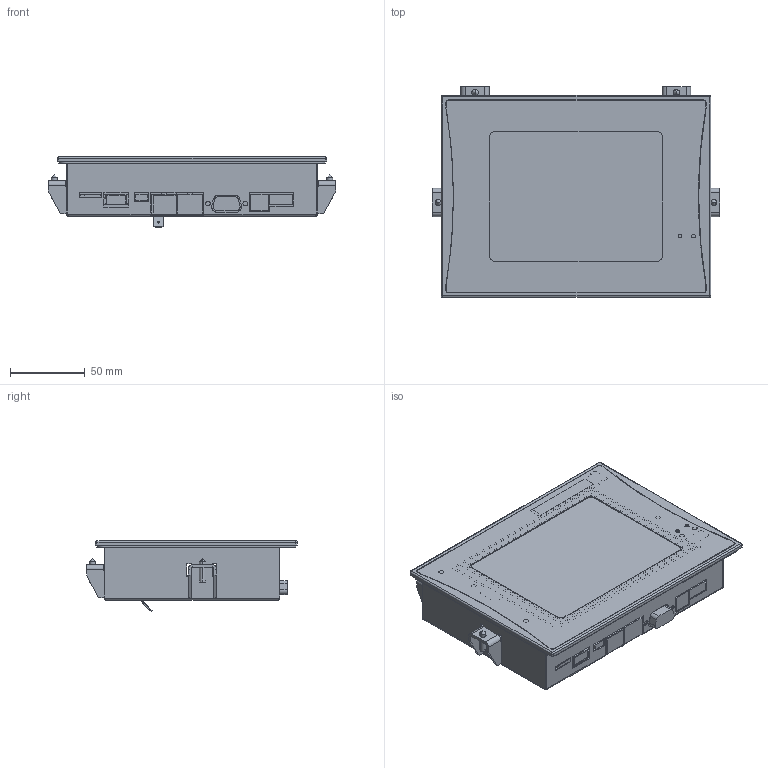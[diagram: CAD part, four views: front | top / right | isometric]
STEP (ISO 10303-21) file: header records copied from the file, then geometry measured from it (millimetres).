
FILE_DESCRIPTION (( 'STEP AP214' ), '1' );
FILE_NAME ('ETV0552 Support.STEP', '2016-04-12T09:49:33', ( 'SIGMATEK GmbH & Co KG' ), ( 'SIGMATEK GmbH & Co KG' ), 'SwSTEP 2.0', 'SolidWorks 2015', '' );
FILE_SCHEMA (( 'AUTOMOTIVE_DESIGN' ));
Length unit declared in the file: millimetre
Products named in the file (12): Befestigungselement Terminal 1fach; ETV0552 Support; 91202_20110330 Support; ETV551 Gehäuse Support.SLDASM; 7227771108 Display UMSH-8377MD-T; ETV0552 mit Glastouch Front; Folie f. ETV0552 ohne Einschubstreifen; Folie f. ETV0552 mit Einschubstreifen; KTP057ABAA-H00-E-01; ETV0552 m. Glastouch Front; Befestigungselement Terminal kpl; Gewindestift ISO 7434 - M4 x 16 - 14H - A2F
Assembly tree (14 placements, depth 3):
  ETV0552 Support
    Befestigungselement Terminal kpl  x4
      Befestigungselement Terminal 1fach
      Gewindestift ISO 7434 - M4 x 16 - 14H - A2F
    ETV0552 mit Glastouch Front
      ETV0552 m. Glastouch Front
      KTP057ABAA-H00-E-01
      Folie f. ETV0552 mit Einschubstreifen
      Folie f. ETV0552 ohne Einschubstreifen
    7227771108 Display UMSH-8377MD-T
    ETV551 Gehäuse Support.SLDASM
    91202_20110330 Support
Bounding box: 192 x 141 x 47.42 mm (x, y, z)
Volume: 212735.7 mm3; surface area: 264501.8 mm2
Topology: 22 solids, 22 shells, 1278 faces, 3355 edges, 2145 vertices
Faces by surface type: plane 833, cylinder 241, bspline 116, cone 76, torus 8, sphere 4
Entity records: 39663 total; most frequent: CARTESIAN_POINT 11345, ORIENTED_EDGE 5666, DIRECTION 5080, EDGE_CURVE 2833, VECTOR 2108, LINE 2108, VERTEX_POINT 1833, AXIS2_PLACEMENT_3D 1486
